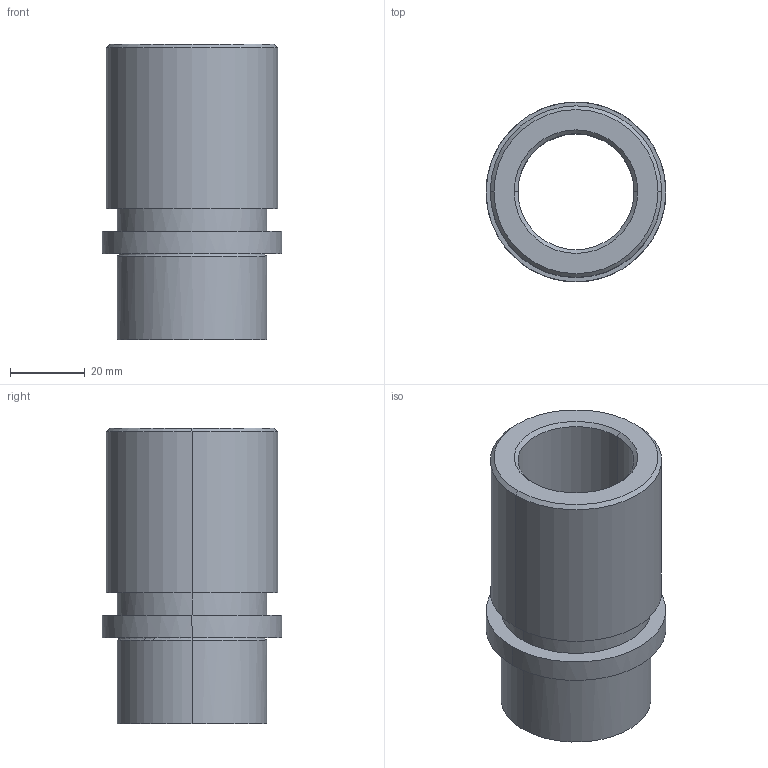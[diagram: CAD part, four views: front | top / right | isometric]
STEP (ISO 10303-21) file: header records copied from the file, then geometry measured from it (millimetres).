
FILE_DESCRIPTION(('CATIA V5 STEP Exchange'),'2;1');
FILE_NAME('C:\Users\Utente\Desktop\IO LAVORO\3D X SITO CF\X SITO\733\733-25.stp','2021-01-11T17:38:34+00:00',('none'),('none'),'CATIA Version 5 Release 20 GA (IN-10)','CATIA V5 STEP AP203','none');
FILE_SCHEMA(('CONFIG_CONTROL_DESIGN'));
Length unit declared in the file: millimetre
Products named in the file (1): 733-25
Assembly tree (1 placements, depth 2):
  733-25
    #58
Bounding box: 48 x 48 x 79 mm (x, y, z)
Volume: 59885.9 mm3; surface area: 21469 mm2
Topology: 1 solids, 1 shells, 25 faces, 50 edges, 30 vertices
Faces by surface type: cylinder 10, cone 6, plane 5, torus 4
Entity records: 851 total; most frequent: CARTESIAN_POINT 282, ORIENTED_EDGE 100, DIRECTION 96, AXIS2_PLACEMENT_3D 53, EDGE_CURVE 50, EDGE_LOOP 30, VERTEX_POINT 30, CIRCLE 26
